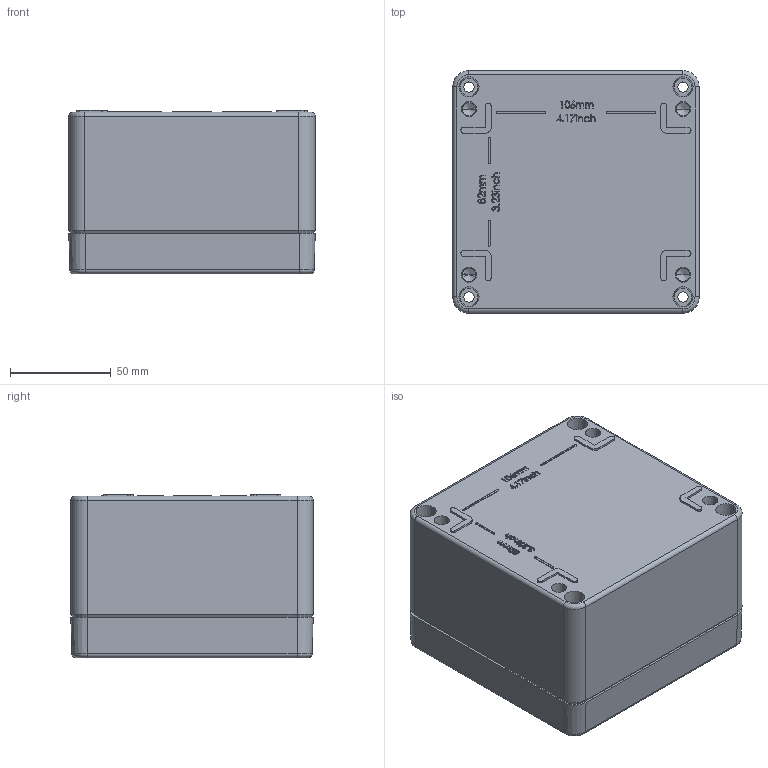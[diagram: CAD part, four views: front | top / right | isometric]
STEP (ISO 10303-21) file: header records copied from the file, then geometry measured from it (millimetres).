
FILE_DESCRIPTION (( 'STEP AP203' ), '1' );
FILE_NAME ('ALU ASSY 12212080.STEP', '2024-08-27T07:29:24', ( '' ), ( '' ), 'SwSTEP 2.0', 'SolidWorks 2018', '' );
FILE_SCHEMA (( 'CONFIG_CONTROL_DESIGN' ));
Length unit declared in the file: millimetre
Products named in the file (3): ALU BASE 12212080; ALU ASSY 12212080; ALU LID 12212080
Assembly tree (2 placements, depth 2):
  ALU ASSY 12212080
    ALU BASE 12212080
    ALU LID 12212080
Bounding box: 122.04 x 120.04 x 81 mm (x, y, z)
Volume: 338016.4 mm3; surface area: 144884 mm2
Topology: 2 solids, 2 shells, 971 faces, 2408 edges, 1526 vertices
Faces by surface type: plane 417, bspline 181, cylinder 163, cone 147, torus 63
Entity records: 40748 total; most frequent: CARTESIAN_POINT 18264, ORIENTED_EDGE 4774, DIRECTION 4191, EDGE_CURVE 2387, VERTEX_POINT 1526, AXIS2_PLACEMENT_3D 1402, VECTOR 1387, LINE 1387
